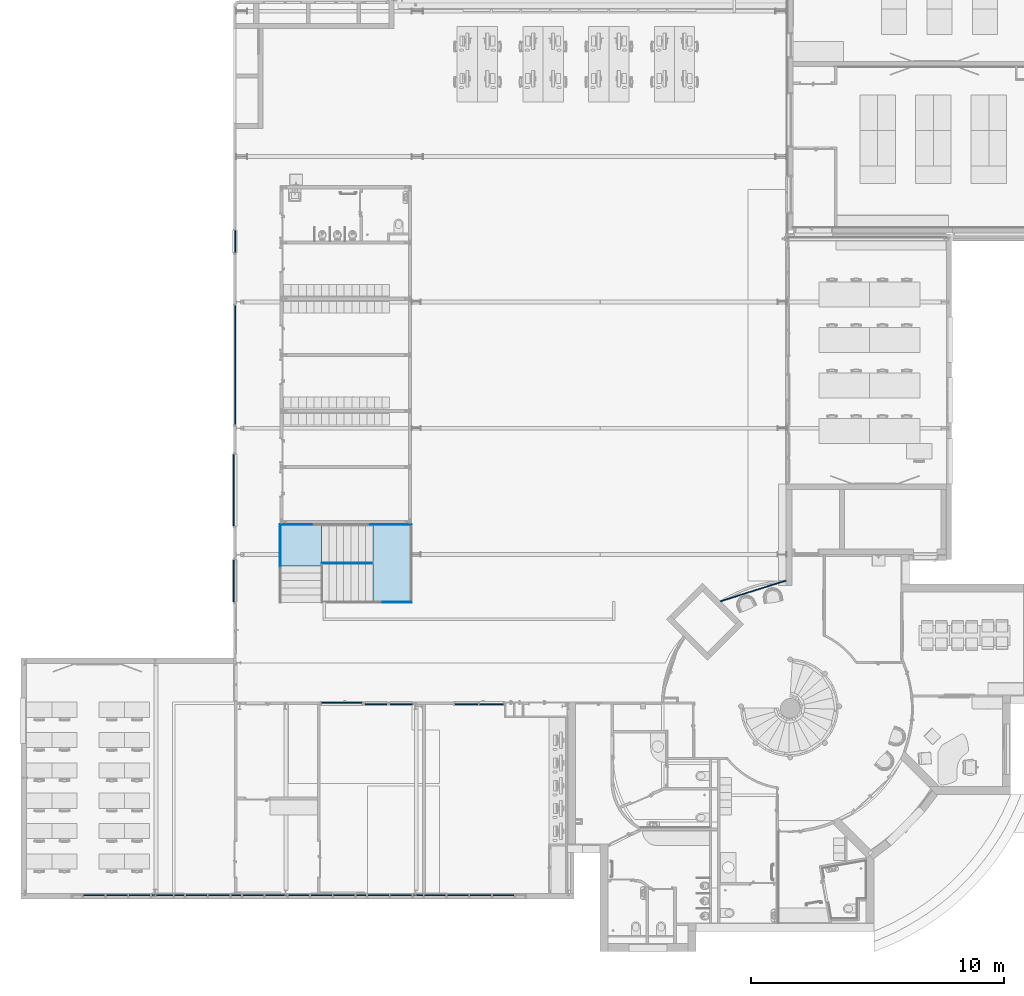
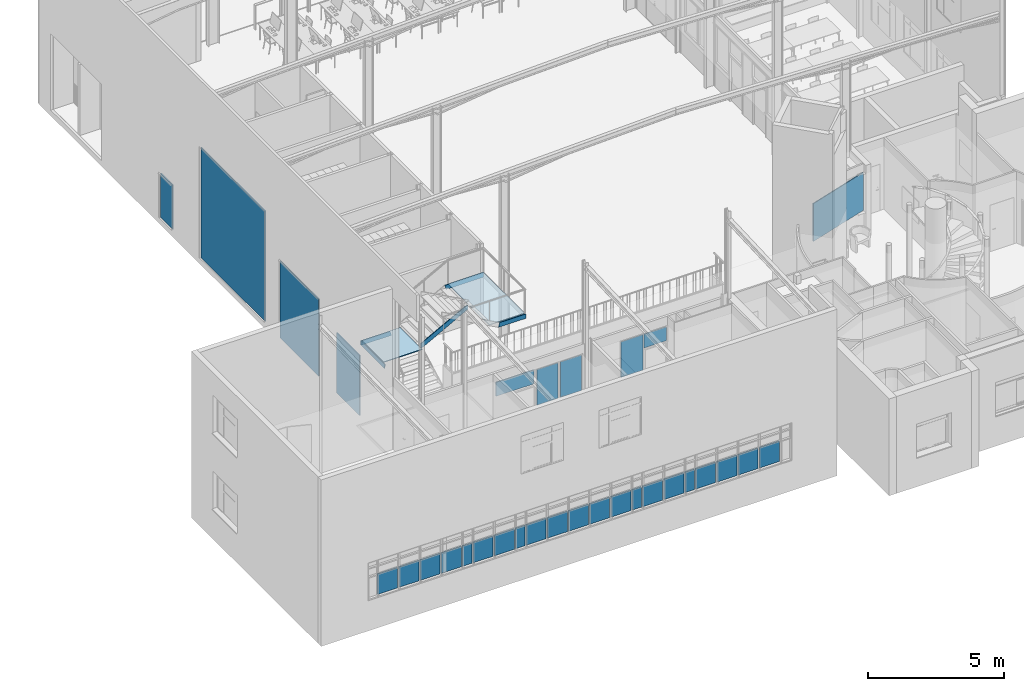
# One storey, part 27 of 137: 31 plates, 5 members, 2 slabs, 11 elements without a shape of their own.
"""IFC2X3 building model written with IfcOpenShell, lengths in centimetres."""

from ifc_helpers import new_model, entity, si_unit, converted_unit, derived_unit, direction, frame, frame_2d, origin, origin_2d_with_axis, place, context, subcontext, project, spatial, polyline, rectangle, outline, extrude, faceted_brep, source, transform, mapped, material, type_object, type_shapes, element, aggregate, save


model = new_model("IFC2X3")

# Units and contexts
model_context = context("Model", 3, precision=0.001, world=origin(), true_north=direction((6.12303176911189e-17, 1.0)))
body_context = subcontext(model_context, "Body", "Model", "MODEL_VIEW")
ifc_project = project(units=[si_unit("LENGTHUNIT", "METRE", prefix="CENTI"), si_unit("AREAUNIT", "SQUARE_METRE"), si_unit("VOLUMEUNIT", "CUBIC_METRE"), converted_unit("PLANEANGLEUNIT", "DEGREE", entity("IfcRatioMeasure", 0.0174532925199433), si_unit("PLANEANGLEUNIT", "RADIAN"), dimensions=[0, 0, 0, 0, 0, 0, 0]), si_unit("MASSUNIT", "GRAM", prefix="KILO"), si_unit("TIMEUNIT", "SECOND"), si_unit("FREQUENCYUNIT", "HERTZ"), si_unit("THERMODYNAMICTEMPERATUREUNIT", "DEGREE_CELSIUS"), derived_unit("THERMALTRANSMITTANCEUNIT", [(si_unit("MASSUNIT", "GRAM", prefix="KILO"), 1), (si_unit("THERMODYNAMICTEMPERATUREUNIT", "KELVIN"), -1), (si_unit("TIMEUNIT", "SECOND"), -3)]), derived_unit("VOLUMETRICFLOWRATEUNIT", [(si_unit("LENGTHUNIT", "METRE"), 3), (si_unit("TIMEUNIT", "SECOND"), -1)]), si_unit("ELECTRICCURRENTUNIT", "AMPERE"), si_unit("ELECTRICVOLTAGEUNIT", "VOLT"), si_unit("POWERUNIT", "WATT"), si_unit("FORCEUNIT", "NEWTON", prefix="KILO"), si_unit("ILLUMINANCEUNIT", "LUX"), si_unit("LUMINOUSFLUXUNIT", "LUMEN"), si_unit("LUMINOUSINTENSITYUNIT", "CANDELA"), derived_unit("USERDEFINED", [(si_unit("MASSUNIT", "GRAM", prefix="KILO"), -1), (si_unit("LENGTHUNIT", "METRE"), -2), (si_unit("TIMEUNIT", "SECOND"), 3), (si_unit("LUMINOUSFLUXUNIT", "LUMEN"), 1)]), derived_unit("LINEARVELOCITYUNIT", [(si_unit("LENGTHUNIT", "METRE"), 1), (si_unit("TIMEUNIT", "SECOND"), -1)]), si_unit("PRESSUREUNIT", "PASCAL"), derived_unit("USERDEFINED", [(si_unit("LENGTHUNIT", "METRE"), -2), (si_unit("MASSUNIT", "GRAM", prefix="KILO"), 1), (si_unit("TIMEUNIT", "SECOND"), -2)])], contexts=[model_context])

# Site, building, storey
site_placement = place(None, frame((8.62739174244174, -249.285249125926, 0.0)))
site = spatial("IfcSite", under=ifc_project, at=site_placement, Name="Default", CompositionType="ELEMENT")
building_placement = place(site_placement, origin())
building = spatial("IfcBuilding", under=site, at=building_placement, CompositionType="ELEMENT")
storey_placement = place(building_placement, origin())
storey = spatial("IfcBuildingStorey", under=building, at=storey_placement, Name="RDC", CompositionType="ELEMENT", Elevation=-8.82465566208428e-11)

# Stair, members
stair_placement = place(storey_placement, origin())
stair = element("IfcStair", 1, at=stair_placement, inside=storey, Name="Escalier assemblé:Escalier", ObjectType="Escalier assemblé:Escalier métallique", ShapeType="NOTDEFINED")
ifc_material_1 = material(Name="Acier, 45-345")
member_type = type_object("IfcMemberType", Name="Limon à la française:Limon à la française - 30 mm", PredefinedType="STRINGER")
member_1_placement = place(stair_placement, frame((1189.90482780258, 1326.50020806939, 90.5454545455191)))
member_1 = element("IfcMember", 2, at=member_1_placement, type_object=member_type, material=ifc_material_1, Name="Escalier assemblé:Escalier:1434872 Stringer 4", ObjectType="Escalier assemblé:Escalier métallique", context=body_context, shape_type="Brep", body=[
    faceted_brep([(200.0, 0.0, 124.727272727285), (200.0, 0.0, 107.523510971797), (200.0, 3.0, 107.523510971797), (200.0, 3.0, 124.727272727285), (189.763442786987, 3.0, 124.727272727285), (189.763442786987, 0.0, 124.727272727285), (0.0, 3.0, 22.7071146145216), (0.0123357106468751, 0.0, 22.7137465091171), (0.0123357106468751, 0.0, 0.00663189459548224), (0.0, 3.0, 0.0)], [[[0, 1, 2, 3]], [[4, 5, 0, 3]], [[6, 7, 5, 4]], [[7, 8, 1, 0, 5]], [[9, 6, 4, 3, 2]], [[8, 9, 2, 1]], [[7, 6, 9, 8]]]),
])
member_2_placement = place(stair_placement, frame((1023.90482780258, 1479.50020806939, 70.5454545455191)))
member_2 = element("IfcMember", 3, at=member_2_placement, type_object=member_type, material=ifc_material_1, Name="Escalier assemblé:Escalier:1434872 Stringer 5", ObjectType="Escalier assemblé:Escalier métallique", context=body_context, shape_type="Brep", body=[
    faceted_brep([(123.763442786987, 0.0, 20.0), (123.763442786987, 3.0, 20.0), (0.0, 3.0, 20.0), (3.0, 0.0, 20.0), (128.798833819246, 0.0, 0.0), (3.0, 0.0, 0.0), (128.798833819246, 3.0, 0.0), (0.0, 3.0, 0.0)], [[[0, 1, 2, 3]], [[4, 0, 3, 5]], [[6, 4, 5, 7]], [[1, 6, 7, 2]], [[1, 0, 4, 6]], [[2, 7, 5, 3]]]),
])
member_3_placement = place(stair_placement, frame((1023.90482780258, 1304.26365085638, 70.5454545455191)))
member_3 = element("IfcMember", 4, at=member_3_placement, type_object=member_type, material=ifc_material_1, Name="Escalier assemblé:Escalier:1434872 Stringer 6", ObjectType="Escalier assemblé:Escalier métallique", context=body_context, shape_type="Brep", body=[
    faceted_brep([(3.0, 175.236557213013, 20.0), (0.0, 178.236557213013, 20.0), (0.0, 0.0, 20.0), (3.0, 0.0, 20.0), (3.0, 175.236557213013, 0.0), (3.0, 5.03539103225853, 0.0), (0.0, 178.236557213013, 0.0), (0.0, 5.03539103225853, 0.0)], [[[0, 1, 2, 3]], [[4, 0, 3, 5]], [[6, 4, 5, 7]], [[1, 6, 7, 2]], [[1, 0, 4, 6]], [[2, 7, 5, 3]]]),
])
member_4_placement = place(stair_placement, frame((1430.10599398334, 1172.50020806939, 195.272727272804)))
member_4 = element("IfcMember", 5, at=member_4_placement, type_object=member_type, material=ifc_material_1, Name="Escalier assemblé:Escalier:1434872 Stringer 9", ObjectType="Escalier assemblé:Escalier métallique", context=body_context, shape_type="Brep", body=[
    faceted_brep([(5.03539103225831, 3.0, 20.0), (5.03539103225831, 0.0, 20.0), (115.798833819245, 0.0, 20.0), (112.798833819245, 3.0, 20.0), (0.0, 3.0, 0.0), (112.798833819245, 3.0, 0.0), (0.0, 0.0, 0.0), (115.798833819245, 0.0, 0.0)], [[[0, 1, 2, 3]], [[4, 0, 3, 5]], [[6, 4, 5, 7]], [[1, 6, 7, 2]], [[1, 0, 4, 6]], [[2, 7, 5, 3]]]),
])
member_5_placement = place(stair_placement, frame((1379.66827058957, 1479.50020806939, 195.272727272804)))
member_5 = element("IfcMember", 6, at=member_5_placement, type_object=member_type, material=ifc_material_1, Name="Escalier assemblé:Escalier:1434872 Stringer 11", ObjectType="Escalier assemblé:Escalier métallique", context=body_context, shape_type="Brep", body=[
    faceted_brep([(163.236557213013, 0.0, 20.0), (166.236557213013, 3.0, 20.0), (0.0, 3.0, 20.0), (0.0, 0.0, 20.0), (163.236557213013, 0.0, 0.0), (5.03539103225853, 0.0, 0.0), (166.236557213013, 3.0, 0.0), (5.03539103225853, 3.0, 0.0)], [[[0, 1, 2, 3]], [[4, 0, 3, 5]], [[6, 4, 5, 7]], [[1, 6, 7, 2]], [[1, 0, 4, 6]], [[2, 7, 5, 3]]]),
])

# Curtain wall, plate
curtain_wall_type = type_object("IfcCurtainWallType", Name="Mur-rideau:Simple panneau", PredefinedType="NOTDEFINED")
curtain_wall_1_placement = place(storey_placement, origin())
curtain_wall_1 = element("IfcCurtainWall", 7, at=curtain_wall_1_placement, inside=storey, type_object=curtain_wall_type, Name="Mur-rideau:Simple panneau", ObjectType="Mur-rideau:Simple panneau")
ifc_material_2 = material(Name="Verre")
plate_type_1 = type_object("IfcPlateType", Name="Vitré", PredefinedType="CURTAIN_PANEL", material=ifc_material_2)
shared_shape_1 = source(origin(), body_context, "Body", "SweptSolid", [
    extrude(rectangle(XDim=4.0, YDim=167.999999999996, at=origin_2d_with_axis()), frame((0.0, 2.50000000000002, 0.0), z_axis=(0.0, 0.0, 1.0), x_axis=(0.0, 1.0, 0.0)), (0.0, 0.0, 1.0), 270.0),
])
type_shapes(plate_type_1, [shared_shape_1])
plate_1_placement = place(curtain_wall_1_placement, frame((844.904827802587, 1257.98020806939, 5.0), z_axis=(0.0, 0.0, 1.0), x_axis=(0.0, 1.0, 0.0)))
plate_1 = element("IfcPlate", 8, at=plate_1_placement, type_object=plate_type_1, material=ifc_material_2, Name="Panneau système:Vitré", ObjectType="Vitré", context=body_context, shape_type="MappedRepresentation", body=[
    mapped(shared_shape_1, transform((0.0, 0.0, 0.0), scale=1.0)),
])
aggregate(curtain_wall_1, [plate_1])

curtain_wall_2_placement = place(storey_placement, origin())
curtain_wall_2 = element("IfcCurtainWall", 9, at=curtain_wall_2_placement, inside=storey, type_object=curtain_wall_type, Name="Mur-rideau:Simple panneau", ObjectType="Mur-rideau:Simple panneau")
plate_type_2 = type_object("IfcPlateType", Name="Vitré", PredefinedType="CURTAIN_PANEL", material=ifc_material_2)
shared_shape_2 = source(origin(), body_context, "Body", "SweptSolid", [
    extrude(rectangle(XDim=4.0, YDim=271.897985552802, at=frame_2d((-4.44089209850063e-16, 0.0), x_axis=(1.0, 0.0))), frame((0.0, 2.5, 0.0), z_axis=(0.0, 0.0, 1.0), x_axis=(0.0, 1.0, 0.0)), (0.0, 0.0, 1.0), 170.0),
])
type_shapes(plate_type_2, [shared_shape_2])
plate_2_placement = place(curtain_wall_2_placement, frame((2898.22592163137, 1216.05077107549, 110.0), z_axis=(0.0, 0.0, 1.0), x_axis=(0.953879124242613, 0.300190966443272, 0.0)))
plate_2 = element("IfcPlate", 10, at=plate_2_placement, type_object=plate_type_2, material=ifc_material_2, Name="Panneau système:Vitré", ObjectType="Vitré", context=body_context, shape_type="MappedRepresentation", body=[
    mapped(shared_shape_2, transform((0.0, 0.0, 0.0), scale=1.0)),
])
aggregate(curtain_wall_2, [plate_2])

curtain_wall_3_placement = place(storey_placement, origin())
curtain_wall_3 = element("IfcCurtainWall", 11, at=curtain_wall_3_placement, inside=storey, type_object=curtain_wall_type, Name="Mur-rideau:Simple panneau", ObjectType="Mur-rideau:Simple panneau")
plate_type_3 = type_object("IfcPlateType", Name="Vitré", PredefinedType="CURTAIN_PANEL", material=ifc_material_2)
shared_shape_3 = source(origin(), body_context, "Body", "SweptSolid", [
    extrude(rectangle(XDim=4.0, YDim=90.0000000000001, at=frame_2d((-4.44089209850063e-16, 0.0), x_axis=(1.0, 0.0))), frame((0.0, 2.5, 0.0), z_axis=(0.0, 0.0, 1.0), x_axis=(0.0, 1.0, 0.0)), (0.0, 0.0, 1.0), 160.0),
])
type_shapes(plate_type_3, [shared_shape_3])
plate_3_placement = place(curtain_wall_3_placement, frame((1504.90482780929, 773.0, 115.0), z_axis=(0.0, 0.0, 1.0), x_axis=(-1.0, 0.0, 0.0)))
plate_3 = element("IfcPlate", 12, at=plate_3_placement, type_object=plate_type_3, material=ifc_material_2, Name="Panneau système:Vitré", ObjectType="Vitré", context=body_context, shape_type="MappedRepresentation", body=[
    mapped(shared_shape_3, transform((0.0, 0.0, 0.0), scale=1.0)),
])
aggregate(curtain_wall_3, [plate_3])

curtain_wall_4_placement = place(storey_placement, origin())
curtain_wall_4 = element("IfcCurtainWall", 13, at=curtain_wall_4_placement, inside=storey, type_object=curtain_wall_type, Name="Mur-rideau:Simple panneau", ObjectType="Mur-rideau:Simple panneau")
plate_4_placement = place(curtain_wall_4_placement, frame((1404.90482780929, 773.0, 115.0), z_axis=(0.0, 0.0, 1.0), x_axis=(-1.0, 0.0, 0.0)))
plate_4 = element("IfcPlate", 14, at=plate_4_placement, type_object=plate_type_3, material=ifc_material_2, Name="Panneau système:Vitré", ObjectType="Vitré", context=body_context, shape_type="MappedRepresentation", body=[
    mapped(shared_shape_3, transform((0.0, 0.0, 0.0), scale=1.0)),
])
aggregate(curtain_wall_4, [plate_4])

# Curtain wall, plates
curtain_wall_5_placement = place(storey_placement, origin())
curtain_wall_5 = element("IfcCurtainWall", 15, at=curtain_wall_5_placement, inside=storey, type_object=curtain_wall_type, Name="Mur-rideau:Simple panneau", ObjectType="Mur-rideau:Simple panneau")
plate_type_4 = type_object("IfcPlateType", Name="Vitré", PredefinedType="CURTAIN_PANEL", material=ifc_material_2)
shared_shape_4 = source(origin(), body_context, "Body", "SweptSolid", [
    extrude(rectangle(XDim=4.0, YDim=96.0, at=frame_2d((-4.44089209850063e-16, 0.0), x_axis=(1.0, 0.0))), frame((0.0, 2.5, 0.0), z_axis=(0.0, 0.0, 1.0), x_axis=(0.0, 1.0, 0.0)), (0.0, 0.0, 1.0), 62.0),
])
type_shapes(plate_type_4, [shared_shape_4])
plate_5_placement = place(curtain_wall_5_placement, frame((1861.90482780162, 773.0, 213.0), z_axis=(0.0, 0.0, 1.0), x_axis=(-1.0, 0.0, 0.0)))
plate_5 = element("IfcPlate", 16, at=plate_5_placement, type_object=plate_type_4, material=ifc_material_2, Name="Panneau système:Vitré", ObjectType="Vitré", context=body_context, shape_type="MappedRepresentation", body=[
    mapped(shared_shape_4, transform((0.0, 0.0, 0.0), scale=1.0)),
])
plate_type_5 = type_object("IfcPlateType", Name="Vitré", PredefinedType="CURTAIN_PANEL", material=ifc_material_2)
shared_shape_5 = source(origin(), body_context, "Body", "SweptSolid", [
    extrude(rectangle(XDim=4.0, YDim=91.999999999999, at=frame_2d((-4.44089209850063e-16, 0.0), x_axis=(1.0, 0.0))), frame((0.0, 2.5, 0.0), z_axis=(0.0, 0.0, 1.0), x_axis=(0.0, 1.0, 0.0)), (0.0, 0.0, 1.0), 160.0),
])
type_shapes(plate_type_5, [shared_shape_5])
plate_6_placement = place(curtain_wall_5_placement, frame((1762.90482780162, 773.0, 115.0), z_axis=(0.0, 0.0, 1.0), x_axis=(-1.0, 0.0, 0.0)))
plate_6 = element("IfcPlate", 17, at=plate_6_placement, type_object=plate_type_5, material=ifc_material_2, Name="Panneau système:Vitré", ObjectType="Vitré", context=body_context, shape_type="MappedRepresentation", body=[
    mapped(shared_shape_5, transform((0.0, 0.0, 0.0), scale=1.0)),
])
aggregate(curtain_wall_5, [plate_5, plate_6])

curtain_wall_6_placement = place(storey_placement, origin())
curtain_wall_6 = element("IfcCurtainWall", 18, at=curtain_wall_6_placement, inside=storey, type_object=curtain_wall_type, Name="Mur-rideau:Simple panneau", ObjectType="Mur-rideau:Simple panneau")
plate_type_6 = type_object("IfcPlateType", Name="Vitré", PredefinedType="CURTAIN_PANEL", material=ifc_material_2)
shared_shape_6 = source(origin(), body_context, "Body", "SweptSolid", [
    extrude(rectangle(XDim=4.0, YDim=85.0, at=frame_2d((-4.44089209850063e-16, 0.0), x_axis=(1.0, 0.0))), frame((0.0, 2.5, 0.0), z_axis=(0.0, 0.0, 1.0), x_axis=(0.0, 1.0, 0.0)), (0.0, 0.0, 1.0), 92.5),
])
type_shapes(plate_type_6, [shared_shape_6])
plate_7_placement = place(curtain_wall_6_placement, frame((289.0, 11.0, 115.0)))
plate_7 = element("IfcPlate", 19, at=plate_7_placement, type_object=plate_type_6, material=ifc_material_2, Name="Panneau système:Vitré", ObjectType="Vitré", context=body_context, shape_type="MappedRepresentation", body=[
    mapped(shared_shape_6, transform((0.0, 0.0, 0.0), scale=1.0)),
])
plate_8_placement = place(curtain_wall_6_placement, frame((379.0, 11.0, 115.0)))
plate_8 = element("IfcPlate", 20, at=plate_8_placement, type_object=plate_type_6, material=ifc_material_2, Name="Panneau système:Vitré", ObjectType="Vitré", context=body_context, shape_type="MappedRepresentation", body=[
    mapped(shared_shape_6, transform((0.0, 0.0, 0.0), scale=1.0)),
])
plate_9_placement = place(curtain_wall_6_placement, frame((469.0, 11.0, 115.0)))
plate_9 = element("IfcPlate", 21, at=plate_9_placement, type_object=plate_type_6, material=ifc_material_2, Name="Panneau système:Vitré", ObjectType="Vitré", context=body_context, shape_type="MappedRepresentation", body=[
    mapped(shared_shape_6, transform((0.0, 0.0, 0.0), scale=1.0)),
])
plate_10_placement = place(curtain_wall_6_placement, frame((694.0, 11.0, 115.0)))
plate_10 = element("IfcPlate", 22, at=plate_10_placement, type_object=plate_type_6, material=ifc_material_2, Name="Panneau système:Vitré", ObjectType="Vitré", context=body_context, shape_type="MappedRepresentation", body=[
    mapped(shared_shape_6, transform((0.0, 0.0, 0.0), scale=1.0)),
])
plate_11_placement = place(curtain_wall_6_placement, frame((784.0, 11.0, 115.0)))
plate_11 = element("IfcPlate", 23, at=plate_11_placement, type_object=plate_type_6, material=ifc_material_2, Name="Panneau système:Vitré", ObjectType="Vitré", context=body_context, shape_type="MappedRepresentation", body=[
    mapped(shared_shape_6, transform((0.0, 0.0, 0.0), scale=1.0)),
])
plate_12_placement = place(curtain_wall_6_placement, frame((919.0, 11.0, 115.0)))
plate_12 = element("IfcPlate", 24, at=plate_12_placement, type_object=plate_type_6, material=ifc_material_2, Name="Panneau système:Vitré", ObjectType="Vitré", context=body_context, shape_type="MappedRepresentation", body=[
    mapped(shared_shape_6, transform((0.0, 0.0, 0.0), scale=1.0)),
])
plate_13_placement = place(curtain_wall_6_placement, frame((1279.0, 11.0, 115.0)))
plate_13 = element("IfcPlate", 25, at=plate_13_placement, type_object=plate_type_6, material=ifc_material_2, Name="Panneau système:Vitré", ObjectType="Vitré", context=body_context, shape_type="MappedRepresentation", body=[
    mapped(shared_shape_6, transform((0.0, 0.0, 0.0), scale=1.0)),
])
plate_14_placement = place(curtain_wall_6_placement, frame((1414.0, 11.0, 115.0)))
plate_14 = element("IfcPlate", 26, at=plate_14_placement, type_object=plate_type_6, material=ifc_material_2, Name="Panneau système:Vitré", ObjectType="Vitré", context=body_context, shape_type="MappedRepresentation", body=[
    mapped(shared_shape_6, transform((0.0, 0.0, 0.0), scale=1.0)),
])
plate_15_placement = place(curtain_wall_6_placement, frame((1504.0, 11.0, 115.0)))
plate_15 = element("IfcPlate", 27, at=plate_15_placement, type_object=plate_type_6, material=ifc_material_2, Name="Panneau système:Vitré", ObjectType="Vitré", context=body_context, shape_type="MappedRepresentation", body=[
    mapped(shared_shape_6, transform((0.0, 0.0, 0.0), scale=1.0)),
])
plate_16_placement = place(curtain_wall_6_placement, frame((1729.0, 11.0, 115.0)))
plate_16 = element("IfcPlate", 28, at=plate_16_placement, type_object=plate_type_6, material=ifc_material_2, Name="Panneau système:Vitré", ObjectType="Vitré", context=body_context, shape_type="MappedRepresentation", body=[
    mapped(shared_shape_6, transform((0.0, 0.0, 0.0), scale=1.0)),
])
plate_17_placement = place(curtain_wall_6_placement, frame((1819.0, 11.0, 115.0)))
plate_17 = element("IfcPlate", 29, at=plate_17_placement, type_object=plate_type_6, material=ifc_material_2, Name="Panneau système:Vitré", ObjectType="Vitré", context=body_context, shape_type="MappedRepresentation", body=[
    mapped(shared_shape_6, transform((0.0, 0.0, 0.0), scale=1.0)),
])
plate_18_placement = place(curtain_wall_6_placement, frame((1909.0, 11.0, 115.0)))
plate_18 = element("IfcPlate", 30, at=plate_18_placement, type_object=plate_type_6, material=ifc_material_2, Name="Panneau système:Vitré", ObjectType="Vitré", context=body_context, shape_type="MappedRepresentation", body=[
    mapped(shared_shape_6, transform((0.0, 0.0, 0.0), scale=1.0)),
])
ifc_material_3 = material(Name="Par défaut")
plate_type_7 = type_object("IfcPlateType", Name="Plein", PredefinedType="CURTAIN_PANEL", material=ifc_material_3)
shared_shape_7 = source(origin(), body_context, "Body", "SweptSolid", [
    extrude(rectangle(XDim=4.0, YDim=85.0000000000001, at=frame_2d((-4.44089209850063e-16, 0.0), x_axis=(1.0, 0.0))), frame((0.0, 2.5, 0.0), z_axis=(0.0, 0.0, 1.0), x_axis=(0.0, 1.0, 0.0)), (0.0, 0.0, 1.0), 92.5),
])
type_shapes(plate_type_7, [shared_shape_7])
plate_19_placement = place(curtain_wall_6_placement, frame((559.0, 11.0, 115.0)))
plate_19 = element("IfcPlate", 31, at=plate_19_placement, type_object=plate_type_7, material=ifc_material_3, Name="Panneau système:Plein", ObjectType="Plein", context=body_context, shape_type="MappedRepresentation", body=[
    mapped(shared_shape_7, transform((0.0, 0.0, 0.0), scale=1.0)),
])
plate_20_placement = place(curtain_wall_6_placement, frame((1009.0, 11.0, 115.0)))
plate_20 = element("IfcPlate", 32, at=plate_20_placement, type_object=plate_type_7, material=ifc_material_3, Name="Panneau système:Plein", ObjectType="Plein", context=body_context, shape_type="MappedRepresentation", body=[
    mapped(shared_shape_7, transform((0.0, 0.0, 0.0), scale=1.0)),
])
plate_21_placement = place(curtain_wall_6_placement, frame((1099.0, 11.0, 115.0)))
plate_21 = element("IfcPlate", 33, at=plate_21_placement, type_object=plate_type_7, material=ifc_material_3, Name="Panneau système:Plein", ObjectType="Plein", context=body_context, shape_type="MappedRepresentation", body=[
    mapped(shared_shape_7, transform((0.0, 0.0, 0.0), scale=1.0)),
])
plate_22_placement = place(curtain_wall_6_placement, frame((1189.0, 11.0, 115.0)))
plate_22 = element("IfcPlate", 34, at=plate_22_placement, type_object=plate_type_7, material=ifc_material_3, Name="Panneau système:Plein", ObjectType="Plein", context=body_context, shape_type="MappedRepresentation", body=[
    mapped(shared_shape_7, transform((0.0, 0.0, 0.0), scale=1.0)),
])
plate_23_placement = place(curtain_wall_6_placement, frame((1639.0, 11.0, 115.0)))
plate_23 = element("IfcPlate", 35, at=plate_23_placement, type_object=plate_type_7, material=ifc_material_3, Name="Panneau système:Plein", ObjectType="Plein", context=body_context, shape_type="MappedRepresentation", body=[
    mapped(shared_shape_7, transform((0.0, 0.0, 0.0), scale=1.0)),
])
plate_type_8 = type_object("IfcPlateType", Name="Plein", PredefinedType="CURTAIN_PANEL", material=ifc_material_3)
shared_shape_8 = source(origin(), body_context, "Body", "SweptSolid", [
    extrude(rectangle(XDim=4.0, YDim=40.0000000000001, at=frame_2d((-4.44089209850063e-16, 0.0), x_axis=(1.0, 0.0))), frame((0.0, 2.5, 0.0), z_axis=(0.0, 0.0, 1.0), x_axis=(0.0, 1.0, 0.0)), (0.0, 0.0, 1.0), 92.5),
])
type_shapes(plate_type_8, [shared_shape_8])
plate_24_placement = place(curtain_wall_6_placement, frame((626.5, 11.0, 115.0)))
plate_24 = element("IfcPlate", 36, at=plate_24_placement, type_object=plate_type_8, material=ifc_material_3, Name="Panneau système:Plein", ObjectType="Plein", context=body_context, shape_type="MappedRepresentation", body=[
    mapped(shared_shape_8, transform((0.0, 0.0, 0.0), scale=1.0)),
])
plate_25_placement = place(curtain_wall_6_placement, frame((851.5, 11.0, 115.0)))
plate_25 = element("IfcPlate", 37, at=plate_25_placement, type_object=plate_type_8, material=ifc_material_3, Name="Panneau système:Plein", ObjectType="Plein", context=body_context, shape_type="MappedRepresentation", body=[
    mapped(shared_shape_8, transform((0.0, 0.0, 0.0), scale=1.0)),
])
plate_26_placement = place(curtain_wall_6_placement, frame((1346.5, 11.0, 115.0)))
plate_26 = element("IfcPlate", 38, at=plate_26_placement, type_object=plate_type_8, material=ifc_material_3, Name="Panneau système:Plein", ObjectType="Plein", context=body_context, shape_type="MappedRepresentation", body=[
    mapped(shared_shape_8, transform((0.0, 0.0, 0.0), scale=1.0)),
])
plate_27_placement = place(curtain_wall_6_placement, frame((1571.5, 11.0, 115.0)))
plate_27 = element("IfcPlate", 39, at=plate_27_placement, type_object=plate_type_8, material=ifc_material_3, Name="Panneau système:Plein", ObjectType="Plein", context=body_context, shape_type="MappedRepresentation", body=[
    mapped(shared_shape_8, transform((0.0, 0.0, 0.0), scale=1.0)),
])
aggregate(curtain_wall_6, [plate_7, plate_8, plate_9, plate_19, plate_24, plate_10, plate_11, plate_25, plate_12, plate_20, plate_21, plate_22, plate_13, plate_26, plate_14, plate_15, plate_27, plate_23, plate_16, plate_17, plate_18])

# Curtain wall, plate
curtain_wall_7_placement = place(storey_placement, origin())
curtain_wall_7 = element("IfcCurtainWall", 40, at=curtain_wall_7_placement, inside=storey, type_object=curtain_wall_type, Name="Mur-rideau:Simple panneau", ObjectType="Mur-rideau:Simple panneau")
plate_type_9 = type_object("IfcPlateType", Name="Vitré", PredefinedType="CURTAIN_PANEL", material=ifc_material_2)
shared_shape_9 = source(origin(), body_context, "Body", "SweptSolid", [
    extrude(rectangle(XDim=4.0, YDim=161.0, at=frame_2d((-4.44089209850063e-16, 0.0), x_axis=(1.0, 0.0))), frame((0.0, 2.5, 0.0), z_axis=(0.0, 0.0, 1.0), x_axis=(0.0, 1.0, 0.0)), (0.0, 0.0, 1.0), 62.9999999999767),
])
type_shapes(plate_type_9, [shared_shape_9])
plate_28_placement = place(curtain_wall_7_placement, frame((1269.40482780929, 773.0, 212.0)))
plate_28 = element("IfcPlate", 41, at=plate_28_placement, type_object=plate_type_9, material=ifc_material_2, Name="Panneau système:Vitré", ObjectType="Vitré", context=body_context, shape_type="MappedRepresentation", body=[
    mapped(shared_shape_9, transform((0.0, 0.0, 0.0), scale=1.0)),
])
aggregate(curtain_wall_7, [plate_28])

curtain_wall_8_placement = place(storey_placement, origin())
curtain_wall_8 = element("IfcCurtainWall", 42, at=curtain_wall_8_placement, inside=storey, type_object=curtain_wall_type, Name="Mur-rideau:Simple panneau", ObjectType="Mur-rideau:Simple panneau")
plate_type_10 = type_object("IfcPlateType", Name="Plein", PredefinedType="CURTAIN_PANEL", material=ifc_material_3)
shared_shape_10 = source(origin(), body_context, "Body", "SweptSolid", [
    extrude(rectangle(XDim=4.0, YDim=88.9999999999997, at=origin_2d_with_axis()), frame((0.0, 2.50000000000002, 0.0), z_axis=(0.0, 0.0, 1.0), x_axis=(0.0, 1.0, 0.0)), (0.0, 0.0, 1.0), 198.999999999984),
])
type_shapes(plate_type_10, [shared_shape_10])
plate_29_placement = place(curtain_wall_8_placement, frame((845.404827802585, 2600.98020806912, 0.0), z_axis=(0.0, 0.0, 1.0), x_axis=(0.0, -1.0, 0.0)))
plate_29 = element("IfcPlate", 43, at=plate_29_placement, type_object=plate_type_10, material=ifc_material_3, Name="Panneau système:Plein", ObjectType="Plein", context=body_context, shape_type="MappedRepresentation", body=[
    mapped(shared_shape_10, transform((0.0, 0.0, 0.0), scale=1.0)),
])
aggregate(curtain_wall_8, [plate_29])

curtain_wall_9_placement = place(storey_placement, origin())
curtain_wall_9 = element("IfcCurtainWall", 44, at=curtain_wall_9_placement, inside=storey, type_object=curtain_wall_type, Name="Mur-rideau:Simple panneau", ObjectType="Mur-rideau:Simple panneau")
plate_type_11 = type_object("IfcPlateType", Name="Plein", PredefinedType="CURTAIN_PANEL", material=ifc_material_3)
shared_shape_11 = source(origin(), body_context, "Body", "SweptSolid", [
    extrude(rectangle(XDim=4.0, YDim=286.0, at=origin_2d_with_axis()), frame((0.0, -2.49999999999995, 0.0), z_axis=(0.0, 0.0, 1.0), x_axis=(0.0, 1.0, 0.0)), (0.0, 0.0, 1.0), 344.999999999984),
])
type_shapes(plate_type_11, [shared_shape_11])
plate_30_placement = place(curtain_wall_9_placement, frame((844.904827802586, 1616.48020806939, 0.0), z_axis=(0.0, 0.0, 1.0), x_axis=(0.0, -1.0, 0.0)))
plate_30 = element("IfcPlate", 45, at=plate_30_placement, type_object=plate_type_11, material=ifc_material_3, Name="Panneau système:Plein", ObjectType="Plein", context=body_context, shape_type="MappedRepresentation", body=[
    mapped(shared_shape_11, transform((0.0, 0.0, 0.0), scale=1.0)),
])
aggregate(curtain_wall_9, [plate_30])

curtain_wall_10_placement = place(storey_placement, origin())
curtain_wall_10 = element("IfcCurtainWall", 46, at=curtain_wall_10_placement, inside=storey, type_object=curtain_wall_type, Name="Mur-rideau:Simple panneau", ObjectType="Mur-rideau:Simple panneau")
plate_type_12 = type_object("IfcPlateType", Name="Plein", PredefinedType="CURTAIN_PANEL", material=ifc_material_3)
shared_shape_12 = source(origin(), body_context, "Body", "SweptSolid", [
    extrude(rectangle(XDim=4.0, YDim=472.999999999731, at=frame_2d((4.44089209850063e-16, 0.0), x_axis=(1.0, 0.0))), frame((0.0, 2.5000000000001, 0.0), z_axis=(0.0, 0.0, 1.0), x_axis=(0.0, 1.0, 0.0)), (0.0, 0.0, 1.0), 494.999999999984),
])
type_shapes(plate_type_12, [shared_shape_12])
plate_31_placement = place(curtain_wall_10_placement, frame((844.904827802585, 2111.98020806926, 0.0), z_axis=(0.0, 0.0, 1.0), x_axis=(0.0, -1.0, 0.0)))
plate_31 = element("IfcPlate", 47, at=plate_31_placement, type_object=plate_type_12, material=ifc_material_3, Name="Panneau système:Plein", ObjectType="Plein", context=body_context, shape_type="MappedRepresentation", body=[
    mapped(shared_shape_12, transform((0.0, 0.0, 0.0), scale=1.0)),
])
aggregate(curtain_wall_10, [plate_31])

# Slab
slab_1_placement = place(stair_placement, origin())
slab_1 = element("IfcSlab", 48, at=slab_1_placement, material=ifc_material_1, Name="Escalier assemblé:Escalier:1434872 Landing 1", ObjectType="Escalier assemblé:Escalier métallique", PredefinedType="LANDING", context=body_context, shape_type="SweptSolid", body=[
    extrude(outline(polyline([(-97.8098685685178, -67.1999999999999), (65.2394742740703, -67.1999999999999), (65.1901314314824, -55.2), (65.1901314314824, 94.8000000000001), (-97.8098685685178, 94.8000000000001), (-97.8098685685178, -67.1999999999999)])), frame((1124.7146963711, 1384.70020806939, 90.5454545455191)), (0.0, 0.0, 1.0), 2.99999999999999),
])

slab_2_placement = place(stair_placement, origin())
slab_2 = element("IfcSlab", 49, at=slab_2_placement, material=ifc_material_1, Name="Escalier assemblé:Escalier:1434872 Landing 2", ObjectType="Escalier assemblé:Escalier métallique", PredefinedType="LANDING", context=body_context, shape_type="SweptSolid", body=[
    extrude(rectangle(XDim=304.0, YDim=150.0, at=frame_2d((0.0, 24.9999999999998), x_axis=(1.0, 0.0))), frame((1442.90482780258, 1327.50020806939, 215.272727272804), z_axis=(0.0, 0.0, 1.0), x_axis=(0.0, -1.0, 0.0)), (0.0, 0.0, 1.0), 2.99999999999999),
])

aggregate(stair, [slab_1, slab_2, member_1, member_2, member_3, member_4, member_5])

save(model, "model.ifc")
